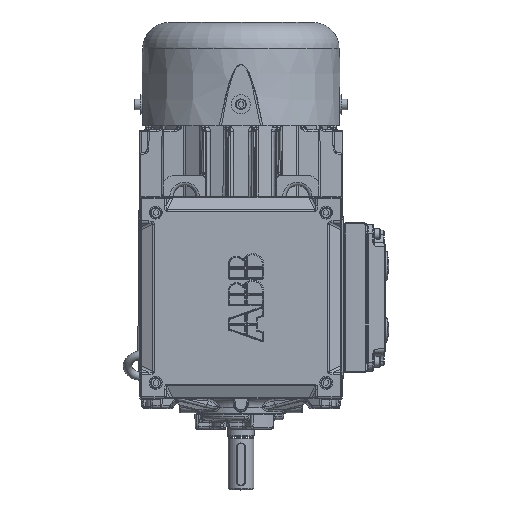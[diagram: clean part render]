
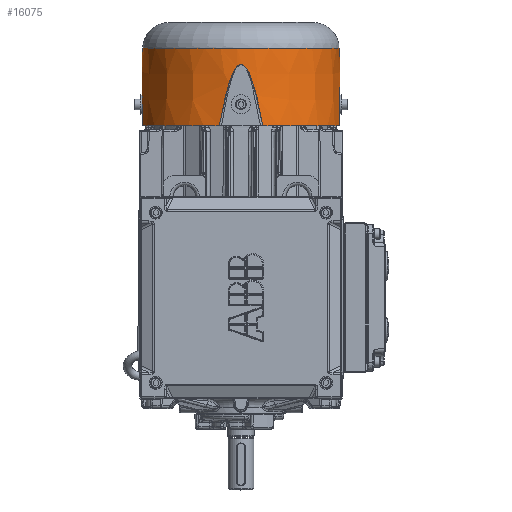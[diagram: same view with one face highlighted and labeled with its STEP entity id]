
A CAD part, top view. The second image highlights one B-rep face of the part: STEP entity #16075.
In plain terms, the highlighted conical face has half-angle 2 degrees and reference radius 92.455 mm.
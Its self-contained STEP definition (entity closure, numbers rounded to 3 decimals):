
#1364=CONICAL_SURFACE('',#58931,92.455,2.);
#11069=B_SPLINE_CURVE_WITH_KNOTS('',3,(#122543,#122544,#122545,#122546,
#122547,#122548,#122549,#122550,#122551,#122552,#122553,#122554,#122555,
#122556,#122557,#122558,#122559,#122560,#122561,#122562,#122563,#122564),
 .UNSPECIFIED.,.F.,.F.,(4,2,2,2,2,2,2,2,2,2,4),(0.,0.25,0.375,0.437,
0.469,0.5,0.531,0.562,
0.625,0.75,1.),.UNSPECIFIED.);
#11070=B_SPLINE_CURVE_WITH_KNOTS('',3,(#122568,#122569,#122570,#122571,
#122572,#122573,#122574,#122575,#122576,#122577,#122578,#122579,#122580,
#122581,#122582,#122583,#122584,#122585,#122586,#122587,#122588,#122589),
 .UNSPECIFIED.,.F.,.F.,(4,2,2,2,2,2,2,2,2,2,4),(0.,0.25,0.375,
0.437,0.469,0.5,0.531,
0.562,0.625,0.75,1.),.UNSPECIFIED.);
#11071=B_SPLINE_CURVE_WITH_KNOTS('',3,(#122593,#122594,#122595,#122596,
#122597,#122598,#122599,#122600,#122601,#122602,#122603,#122604,#122605,
#122606,#122607,#122608,#122609,#122610,#122611,#122612,#122613,#122614),
 .UNSPECIFIED.,.F.,.F.,(4,2,2,2,2,2,2,2,2,2,4),(0.,0.25,0.375,
0.438,0.469,0.5,0.531,
0.563,0.625,0.75,1.),.UNSPECIFIED.);
#11072=B_SPLINE_CURVE_WITH_KNOTS('',3,(#122618,#122619,#122620,#122621),
 .UNSPECIFIED.,.F.,.F.,(4,4),(0.,1.),.UNSPECIFIED.);
#11073=B_SPLINE_CURVE_WITH_KNOTS('',3,(#122625,#122626,#122627,#122628),
 .UNSPECIFIED.,.F.,.F.,(4,4),(0.,1.),.UNSPECIFIED.);
#16075=ADVANCED_FACE('',(#18987),#1364,.T.);
#18987=FACE_OUTER_BOUND('',#22112,.T.);
#22112=EDGE_LOOP('',(#34923,#34924,#34925,#34926,#34927,#34928,#34929,#34930,
#34931,#34932));
#34923=ORIENTED_EDGE('',*,*,#49914,.F.);
#34924=ORIENTED_EDGE('',*,*,#49915,.T.);
#34925=ORIENTED_EDGE('',*,*,#49916,.F.);
#34926=ORIENTED_EDGE('',*,*,#49917,.T.);
#34927=ORIENTED_EDGE('',*,*,#49918,.F.);
#34928=ORIENTED_EDGE('',*,*,#49919,.T.);
#34929=ORIENTED_EDGE('',*,*,#49920,.F.);
#34930=ORIENTED_EDGE('',*,*,#49921,.T.);
#34931=ORIENTED_EDGE('',*,*,#49922,.T.);
#34932=ORIENTED_EDGE('',*,*,#49923,.T.);
#41479=VERTEX_POINT('',#122541);
#41480=VERTEX_POINT('',#122542);
#41481=VERTEX_POINT('',#122565);
#41482=VERTEX_POINT('',#122567);
#41483=VERTEX_POINT('',#122590);
#41484=VERTEX_POINT('',#122592);
#41485=VERTEX_POINT('',#122615);
#41486=VERTEX_POINT('',#122617);
#41487=VERTEX_POINT('',#122622);
#41488=VERTEX_POINT('',#122624);
#49914=EDGE_CURVE('',#41479,#41480,#53749,.T.);
#49915=EDGE_CURVE('',#41479,#41481,#11069,.T.);
#49916=EDGE_CURVE('',#41482,#41481,#53750,.T.);
#49917=EDGE_CURVE('',#41482,#41483,#11070,.T.);
#49918=EDGE_CURVE('',#41484,#41483,#53751,.T.);
#49919=EDGE_CURVE('',#41484,#41485,#11071,.T.);
#49920=EDGE_CURVE('',#41486,#41485,#53752,.T.);
#49921=EDGE_CURVE('',#41486,#41487,#11072,.T.);
#49922=EDGE_CURVE('',#41487,#41488,#53753,.T.);
#49923=EDGE_CURVE('',#41488,#41480,#11073,.T.);
#53749=CIRCLE('',#58926,95.);
#53750=CIRCLE('',#58927,95.);
#53751=CIRCLE('',#58928,95.);
#53752=CIRCLE('',#58929,95.);
#53753=CIRCLE('',#58930,92.455);
#58926=AXIS2_PLACEMENT_3D('',#122540,#71191,#71192);
#58927=AXIS2_PLACEMENT_3D('',#122566,#71193,#71194);
#58928=AXIS2_PLACEMENT_3D('',#122591,#71195,#71196);
#58929=AXIS2_PLACEMENT_3D('',#122616,#71197,#71198);
#58930=AXIS2_PLACEMENT_3D('',#122623,#71199,#71200);
#58931=AXIS2_PLACEMENT_3D('',#122629,#71201,#71202);
#71191=DIRECTION('',(0.,-1.,0.));
#71192=DIRECTION('',(-1.,0.,0.));
#71193=DIRECTION('',(0.,-1.,0.));
#71194=DIRECTION('',(-1.,0.,0.));
#71195=DIRECTION('',(0.,-1.,0.));
#71196=DIRECTION('',(-1.,0.,0.));
#71197=DIRECTION('',(0.,-1.,0.));
#71198=DIRECTION('',(-1.,0.,0.));
#71199=DIRECTION('',(0.,-1.,0.));
#71200=DIRECTION('',(-1.,0.,0.));
#71201=DIRECTION('',(0.,-1.,0.));
#71202=DIRECTION('',(-1.,0.,0.));
#122540=CARTESIAN_POINT('',(0.,173.952,0.));
#122541=CARTESIAN_POINT('',(-92.758,173.952,-20.517));
#122542=CARTESIAN_POINT('',(-35.075,173.952,-88.288));
#122543=CARTESIAN_POINT('',(-92.758,173.952,-20.517));
#122544=CARTESIAN_POINT('',(-92.799,184.266,-18.662));
#122545=CARTESIAN_POINT('',(-92.841,194.544,-16.623));
#122546=CARTESIAN_POINT('',(-92.904,209.722,-12.645));
#122547=CARTESIAN_POINT('',(-92.924,214.755,-11.183));
#122548=CARTESIAN_POINT('',(-92.955,222.099,-8.287));
#122549=CARTESIAN_POINT('',(-92.965,224.497,-7.225));
#122550=CARTESIAN_POINT('',(-92.979,227.841,-5.137));
#122551=CARTESIAN_POINT('',(-92.984,228.931,-4.349));
#122552=CARTESIAN_POINT('',(-92.991,230.731,-2.41));
#122553=CARTESIAN_POINT('',(-92.994,231.461,-1.147));
#122554=CARTESIAN_POINT('',(-92.994,231.329,1.507));
#122555=CARTESIAN_POINT('',(-92.99,230.516,2.704));
#122556=CARTESIAN_POINT('',(-92.982,228.639,4.58));
#122557=CARTESIAN_POINT('',(-92.978,227.541,5.344));
#122558=CARTESIAN_POINT('',(-92.964,224.149,7.394));
#122559=CARTESIAN_POINT('',(-92.954,221.768,8.429));
#122560=CARTESIAN_POINT('',(-92.923,214.522,11.251));
#122561=CARTESIAN_POINT('',(-92.903,209.534,12.698));
#122562=CARTESIAN_POINT('',(-92.841,194.428,16.646));
#122563=CARTESIAN_POINT('',(-92.799,184.203,18.674));
#122564=CARTESIAN_POINT('',(-92.758,173.952,20.517));
#122565=CARTESIAN_POINT('',(-92.758,173.952,20.517));
#122566=CARTESIAN_POINT('',(0.,173.952,0.));
#122567=CARTESIAN_POINT('',(-20.517,173.952,92.758));
#122568=CARTESIAN_POINT('',(-20.517,173.952,92.758));
#122569=CARTESIAN_POINT('',(-18.674,184.203,92.799));
#122570=CARTESIAN_POINT('',(-16.645,194.43,92.841));
#122571=CARTESIAN_POINT('',(-12.697,209.536,92.903));
#122572=CARTESIAN_POINT('',(-11.25,214.524,92.923));
#122573=CARTESIAN_POINT('',(-8.428,221.77,92.954));
#122574=CARTESIAN_POINT('',(-7.393,224.151,92.964));
#122575=CARTESIAN_POINT('',(-5.343,227.543,92.978));
#122576=CARTESIAN_POINT('',(-4.579,228.64,92.982));
#122577=CARTESIAN_POINT('',(-2.702,230.517,92.99));
#122578=CARTESIAN_POINT('',(-1.506,231.33,92.994));
#122579=CARTESIAN_POINT('',(1.148,231.46,92.994));
#122580=CARTESIAN_POINT('',(2.411,230.73,92.991));
#122581=CARTESIAN_POINT('',(4.349,228.929,92.984));
#122582=CARTESIAN_POINT('',(5.138,227.84,92.979));
#122583=CARTESIAN_POINT('',(7.225,224.496,92.965));
#122584=CARTESIAN_POINT('',(8.288,222.098,92.955));
#122585=CARTESIAN_POINT('',(11.184,214.754,92.924));
#122586=CARTESIAN_POINT('',(12.645,209.721,92.904));
#122587=CARTESIAN_POINT('',(16.623,194.544,92.841));
#122588=CARTESIAN_POINT('',(18.662,184.266,92.799));
#122589=CARTESIAN_POINT('',(20.517,173.952,92.758));
#122590=CARTESIAN_POINT('',(20.517,173.952,92.758));
#122591=CARTESIAN_POINT('',(0.,173.952,0.));
#122592=CARTESIAN_POINT('',(92.758,173.952,20.517));
#122593=CARTESIAN_POINT('',(92.758,173.952,20.517));
#122594=CARTESIAN_POINT('',(92.799,184.203,18.674));
#122595=CARTESIAN_POINT('',(92.841,194.43,16.645));
#122596=CARTESIAN_POINT('',(92.903,209.536,12.697));
#122597=CARTESIAN_POINT('',(92.923,214.524,11.25));
#122598=CARTESIAN_POINT('',(92.954,221.77,8.428));
#122599=CARTESIAN_POINT('',(92.964,224.151,7.393));
#122600=CARTESIAN_POINT('',(92.978,227.543,5.343));
#122601=CARTESIAN_POINT('',(92.982,228.64,4.579));
#122602=CARTESIAN_POINT('',(92.99,230.517,2.702));
#122603=CARTESIAN_POINT('',(92.994,231.33,1.506));
#122604=CARTESIAN_POINT('',(92.994,231.46,-1.148));
#122605=CARTESIAN_POINT('',(92.991,230.73,-2.411));
#122606=CARTESIAN_POINT('',(92.984,228.929,-4.349));
#122607=CARTESIAN_POINT('',(92.979,227.84,-5.138));
#122608=CARTESIAN_POINT('',(92.965,224.496,-7.225));
#122609=CARTESIAN_POINT('',(92.955,222.098,-8.288));
#122610=CARTESIAN_POINT('',(92.924,214.754,-11.184));
#122611=CARTESIAN_POINT('',(92.904,209.721,-12.645));
#122612=CARTESIAN_POINT('',(92.841,194.544,-16.623));
#122613=CARTESIAN_POINT('',(92.799,184.266,-18.662));
#122614=CARTESIAN_POINT('',(92.758,173.952,-20.517));
#122615=CARTESIAN_POINT('',(92.758,173.952,-20.517));
#122616=CARTESIAN_POINT('',(0.,173.952,0.));
#122617=CARTESIAN_POINT('',(35.075,173.952,-88.288));
#122618=CARTESIAN_POINT('',(35.075,173.952,-88.288));
#122619=CARTESIAN_POINT('',(32.541,198.281,-88.381));
#122620=CARTESIAN_POINT('',(29.787,222.585,-88.476));
#122621=CARTESIAN_POINT('',(26.506,246.825,-88.574));
#122622=CARTESIAN_POINT('',(26.506,246.825,-88.574));
#122623=CARTESIAN_POINT('',(0.,246.825,0.));
#122624=CARTESIAN_POINT('',(-26.506,246.825,-88.574));
#122625=CARTESIAN_POINT('',(-26.506,246.825,-88.574));
#122626=CARTESIAN_POINT('',(-29.786,222.586,-88.476));
#122627=CARTESIAN_POINT('',(-32.541,198.28,-88.381));
#122628=CARTESIAN_POINT('',(-35.075,173.952,-88.288));
#122629=CARTESIAN_POINT('',(0.,246.825,0.));
